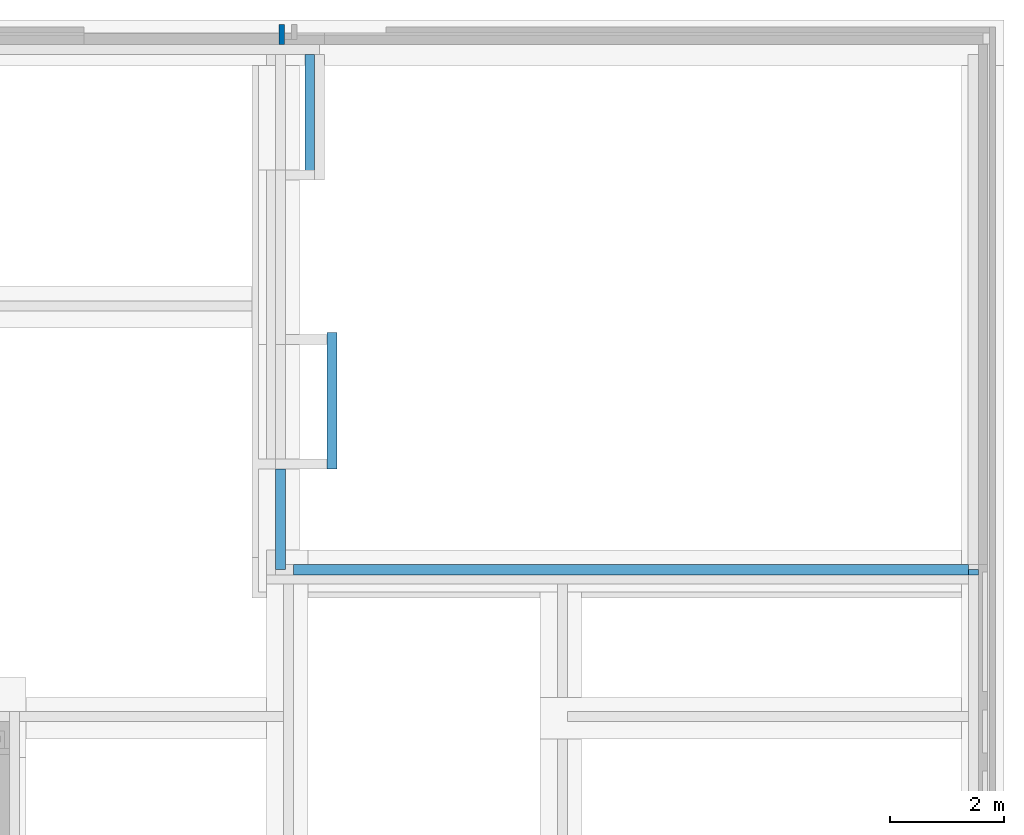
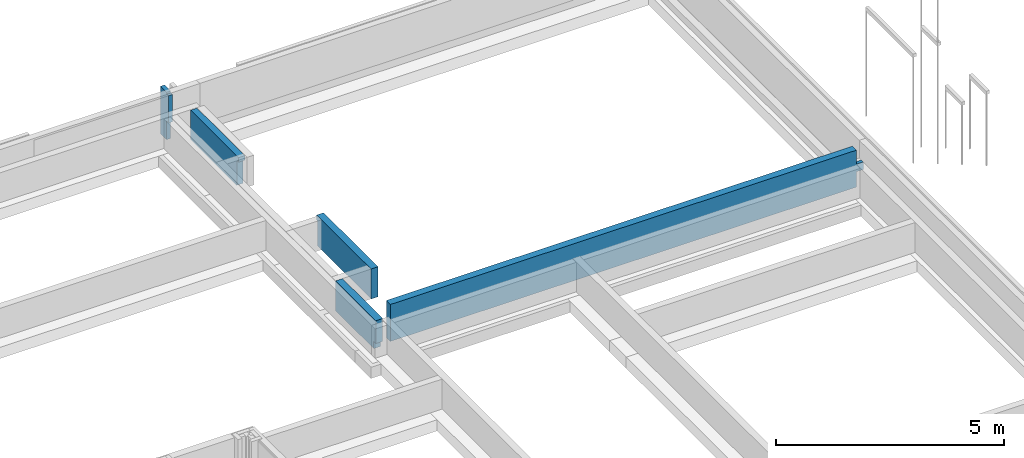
# One storey, part 13 of 15: 5 walls.
"""IFC2X3 building model written with IfcOpenShell, lengths in millimetres."""

from ifc_helpers import new_model, entity, si_unit, converted_unit, derived_unit, direction, frame, origin, place, context, subcontext, project, spatial, faceted_brep, material, layer, layer_set, type_object, element, save


model = new_model("IFC2X3")

# Units and contexts
model_context = context("Model", 3, precision=0.01, world=origin(), true_north=direction((6.123031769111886e-17, 1.0)))
body_context = subcontext(model_context, "Body", "Model", "MODEL_VIEW")
ifc_project = project(units=[si_unit("LENGTHUNIT", "METRE", prefix="MILLI"), si_unit("AREAUNIT", "SQUARE_METRE"), si_unit("VOLUMEUNIT", "CUBIC_METRE"), converted_unit("PLANEANGLEUNIT", "DEGREE", entity("IfcRatioMeasure", 0.017453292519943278), si_unit("PLANEANGLEUNIT", "RADIAN"), dimensions=[0, 0, 0, 0, 0, 0, 0]), si_unit("MASSUNIT", "GRAM", prefix="KILO"), derived_unit("MASSDENSITYUNIT", [(si_unit("MASSUNIT", "GRAM", prefix="KILO"), 1), (si_unit("LENGTHUNIT", "METRE"), -3)]), derived_unit("IONCONCENTRATIONUNIT", [(si_unit("MASSUNIT", "GRAM", prefix="KILO"), 1), (si_unit("LENGTHUNIT", "METRE"), -3)]), derived_unit("MOMENTOFINERTIAUNIT", [(si_unit("LENGTHUNIT", "METRE"), 4)]), si_unit("TIMEUNIT", "SECOND"), si_unit("FREQUENCYUNIT", "HERTZ"), si_unit("THERMODYNAMICTEMPERATUREUNIT", "DEGREE_CELSIUS"), derived_unit("THERMALTRANSMITTANCEUNIT", [(si_unit("MASSUNIT", "GRAM", prefix="KILO"), 1), (si_unit("THERMODYNAMICTEMPERATUREUNIT", "KELVIN"), -1), (si_unit("TIMEUNIT", "SECOND"), -3)]), derived_unit("THERMALCONDUCTANCEUNIT", [(si_unit("MASSUNIT", "GRAM", prefix="KILO"), 1), (si_unit("THERMODYNAMICTEMPERATUREUNIT", "KELVIN"), -1), (si_unit("TIMEUNIT", "SECOND"), -3), (si_unit("LENGTHUNIT", "METRE"), 1)]), derived_unit("VOLUMETRICFLOWRATEUNIT", [(si_unit("LENGTHUNIT", "METRE"), 3), (si_unit("TIMEUNIT", "SECOND"), -1)]), derived_unit("MASSFLOWRATEUNIT", [(si_unit("MASSUNIT", "GRAM", prefix="KILO"), 1), (si_unit("TIMEUNIT", "SECOND"), -1)]), derived_unit("ROTATIONALFREQUENCYUNIT", [(si_unit("TIMEUNIT", "SECOND"), -1)]), si_unit("ELECTRICCURRENTUNIT", "AMPERE"), si_unit("ELECTRICVOLTAGEUNIT", "VOLT"), si_unit("POWERUNIT", "WATT"), si_unit("FORCEUNIT", "NEWTON", prefix="KILO"), si_unit("ILLUMINANCEUNIT", "LUX"), si_unit("LUMINOUSFLUXUNIT", "LUMEN"), si_unit("LUMINOUSINTENSITYUNIT", "CANDELA"), derived_unit("USERDEFINED", [(si_unit("MASSUNIT", "GRAM", prefix="KILO"), -1), (si_unit("LENGTHUNIT", "METRE"), -2), (si_unit("TIMEUNIT", "SECOND"), 3), (si_unit("LUMINOUSFLUXUNIT", "LUMEN"), 1)]), derived_unit("USERDEFINED", [(si_unit("MASSUNIT", "GRAM", prefix="KILO"), 1), (si_unit("TIMEUNIT", "SECOND"), -3), (si_unit("LENGTHUNIT", "METRE"), 3), (si_unit("ELECTRICCURRENTUNIT", "AMPERE"), -2)]), derived_unit("SOUNDPOWERUNIT", [(si_unit("MASSUNIT", "GRAM", prefix="KILO"), 1), (si_unit("TIMEUNIT", "SECOND"), -3), (si_unit("LENGTHUNIT", "METRE"), 2)]), derived_unit("SOUNDPRESSUREUNIT", [(si_unit("MASSUNIT", "GRAM", prefix="KILO"), 1), (si_unit("LENGTHUNIT", "METRE"), -1), (si_unit("TIMEUNIT", "SECOND"), -2)]), derived_unit("LINEARVELOCITYUNIT", [(si_unit("LENGTHUNIT", "METRE"), 1), (si_unit("TIMEUNIT", "SECOND"), -1)]), si_unit("PRESSUREUNIT", "PASCAL"), derived_unit("USERDEFINED", [(si_unit("MASSUNIT", "GRAM", prefix="KILO"), 1), (si_unit("LENGTHUNIT", "METRE"), -2), (si_unit("TIMEUNIT", "SECOND"), -2)]), derived_unit("LINEARFORCEUNIT", [(si_unit("MASSUNIT", "GRAM", prefix="KILO"), 1), (si_unit("TIMEUNIT", "SECOND"), -2)]), derived_unit("PLANARFORCEUNIT", [(si_unit("MASSUNIT", "GRAM", prefix="KILO"), 1), (si_unit("LENGTHUNIT", "METRE"), -1), (si_unit("TIMEUNIT", "SECOND"), -2)]), derived_unit("SPECIFICHEATCAPACITYUNIT", [(si_unit("THERMODYNAMICTEMPERATUREUNIT", "KELVIN"), -1), (si_unit("LENGTHUNIT", "METRE"), 2), (si_unit("TIMEUNIT", "SECOND"), -2)]), derived_unit("HEATINGVALUEUNIT", [(si_unit("LENGTHUNIT", "METRE"), 2), (si_unit("TIMEUNIT", "SECOND"), -2)]), derived_unit("VAPORPERMEABILITYUNIT", [(si_unit("LENGTHUNIT", "METRE"), -1), (si_unit("TIMEUNIT", "SECOND"), 1)]), derived_unit("DYNAMICVISCOSITYUNIT", [(si_unit("MASSUNIT", "GRAM", prefix="KILO"), 1), (si_unit("TIMEUNIT", "SECOND"), -1), (si_unit("LENGTHUNIT", "METRE"), -1)]), derived_unit("THERMALEXPANSIONCOEFFICIENTUNIT", [(si_unit("THERMODYNAMICTEMPERATUREUNIT", "KELVIN"), -1)]), derived_unit("MODULUSOFELASTICITYUNIT", [(si_unit("MASSUNIT", "GRAM", prefix="KILO"), 1), (si_unit("LENGTHUNIT", "METRE"), -1), (si_unit("TIMEUNIT", "SECOND"), -2)]), derived_unit("ISOTHERMALMOISTURECAPACITYUNIT", [(si_unit("LENGTHUNIT", "METRE"), 3), (si_unit("MASSUNIT", "GRAM", prefix="KILO"), -1)]), derived_unit("MOISTUREDIFFUSIVITYUNIT", [(si_unit("TIMEUNIT", "SECOND"), -1), (si_unit("LENGTHUNIT", "METRE"), 2)])], contexts=[model_context])

# Site, building, storey
site_placement = place(None, frame((0.0, 300.0, 0.0)))
site = spatial("IfcSite", under=ifc_project, at=site_placement, Name="<Kadastrale nummers>", CompositionType="ELEMENT")
building_placement = place(site_placement, origin())
building = spatial("IfcBuilding", under=site, at=building_placement, CompositionType="ELEMENT")
storey_placement = place(building_placement, frame((0.0, 0.0, -1570.0)))
storey = spatial("IfcBuildingStorey", under=building, at=storey_placement, Name="-1 fundering", CompositionType="ELEMENT", Elevation=-1570.0)

# Walls
ifc_material_1 = material(Name="ISR_Metselwerk")
ifc_layer_1 = layer(ifc_material_1, 100.0)
ifc_layer_set_1 = layer_set([ifc_layer_1], Name="Basic Wall:21_DAT_metselwerk_100")
wall_type_1 = type_object("IfcWallType", Name="Basic Wall:21_DAT_metselwerk_100", PredefinedType="STANDARD", material=ifc_layer_set_1)
wall_1_placement = place(storey_placement, frame((36490.0, 49875.0, 300.0), z_axis=(0.0, 0.0, 1.0), x_axis=(0.0, 1.0, 0.0)))
element("IfcWall", 1, at=wall_1_placement, inside=storey, type_object=wall_type_1, Name="Basic Wall:21_DAT_metselwerk_100", ObjectType="Basic Wall:21_DAT_metselwerk_100", context=body_context, shape_type="Brep", body=[
    faceted_brep([(85.0, -50.0, 0.0), (185.0, -50.0, 0.0), (350.0, -50.0, 0.0), (350.0, -50.0, 1270.0), (185.0, -50.0, 1270.0), (85.0, -50.0, 1270.0), (85.0, -50.0, 1230.0), (0.0, -50.0, 1230.0), (0.0, -50.0, 500.0), (85.0, -50.0, 500.0), (85.0, 50.0, 0.0), (85.0, 50.0, 500.0), (0.0, 50.0, 500.0), (0.0, 50.0, 1230.0), (85.0, 50.0, 1230.0), (85.0, 50.0, 1270.0), (350.0, 50.0, 1270.0), (350.0, 50.0, 0.0)], [[[0, 1, 2, 3, 4, 5, 6, 7, 8, 9]], [[10, 11, 12, 13, 14, 15, 16, 17]], [[2, 1, 0, 10, 17]], [[3, 2, 17, 16]], [[5, 4, 3, 16, 15]], [[8, 12, 11, 9]], [[6, 14, 13, 7]], [[0, 9, 11, 10]], [[8, 7, 13, 12]], [[6, 5, 15, 14]]]),
])
ifc_material_2 = material(Name="ISR_Gips")
ifc_layer_2 = layer(ifc_material_2, 1.0)
ifc_material_3 = material(Name="ISR_Beton ihwg")
ifc_layer_3 = layer(ifc_material_3, 178.0)
ifc_layer_4 = layer(ifc_material_2, 1.0)
ifc_layer_set_2 = layer_set([ifc_layer_2, ifc_layer_3, ifc_layer_4], Name="Basic Wall:28_DAT_ihw beton_180")
wall_type_2 = type_object("IfcWallType", Name="Basic Wall:28_DAT_ihw beton_180", PredefinedType="STANDARD", material=ifc_layer_set_2)
wall_2_placement = place(storey_placement, frame((36700.0, 40685.0, 488.0)))
element("IfcWall", 2, at=wall_2_placement, inside=storey, type_object=wall_type_2, Name="Basic Wall:28_DAT_ihw beton_180", ObjectType="Basic Wall:28_DAT_ihw beton_180", context=body_context, shape_type="Brep", body=[
    faceted_brep([(0.0, -90.0, 0.0), (11800.0, -90.0, 0.0), (11800.0, -90.0, 412.0), (11975.0, -90.0, 412.0), (11975.0, -90.0, 612.0), (11800.0, -90.0, 612.0), (11800.0, -90.0, 989.56190756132), (0.0, -90.0, 989.56190756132), (0.0, 90.0, 0.0), (0.0, 90.0, 989.56190756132), (11800.0, 90.0, 989.56190756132), (11800.0, 90.0, 612.0), (11800.0, 90.0, 412.0), (11800.0, 90.0, 0.0), (0.0, 0.0, 0.0), (11800.0, 0.0, 412.0), (11975.0, 0.0, 412.0), (11975.0, 0.0, 612.0), (11800.0, 0.0, 612.0)], [[[0, 1, 2, 3, 4, 5, 6, 7]], [[8, 9, 10, 11, 12, 13]], [[1, 0, 14, 8, 13]], [[7, 6, 10, 9]], [[2, 1, 13, 12, 15]], [[4, 3, 16, 17]], [[6, 5, 18, 11, 10]], [[15, 16, 3, 2]], [[0, 7, 9, 8, 14]], [[18, 5, 4, 17]], [[16, 15, 18, 17]], [[15, 12, 11, 18]]]),
])
ifc_layer_5 = layer(ifc_material_2, 1.0)
ifc_material_4 = material(Name="ISR_Kalkzandsteen")
ifc_layer_6 = layer(ifc_material_4, 173.0)
ifc_layer_7 = layer(ifc_material_2, 1.0)
ifc_layer_set_3 = layer_set([ifc_layer_5, ifc_layer_6, ifc_layer_7], Name="Basic Wall:28_DAT_kalkzandsteen_175mm")
wall_type_3 = type_object("IfcWallType", Name="Basic Wall:28_DAT_kalkzandsteen_175mm", PredefinedType="STANDARD", material=ifc_layer_set_3)
wall_3_placement = place(storey_placement, frame((37367.53993788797, 44835.0, 300.0), z_axis=(0.0, 0.0, 1.0), x_axis=(0.0, -1.0, 0.0)))
element("IfcWall", 3, at=wall_3_placement, inside=storey, type_object=wall_type_3, Name="Basic Wall:28_DAT_kalkzandsteen_175mm", ObjectType="Basic Wall:28_DAT_kalkzandsteen_175mm", context=body_context, shape_type="Brep", body=[
    faceted_brep([(38.686677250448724, -87.49999999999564, 0.0), (213.68667725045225, -87.49999999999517, 0.0), (2212.874997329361, -87.4999999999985, 0.0), (2387.8749973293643, -87.49999999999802, 0.0), (2387.8749973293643, -87.49999999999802, 800.0), (2212.874997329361, -87.4999999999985, 800.0), (213.68667725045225, -87.49999999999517, 800.0), (38.686677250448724, -87.49999999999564, 800.0), (0.0, -87.49999999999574, 800.0), (0.0, -87.49999999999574, 670.0), (38.686677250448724, -87.49999999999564, 670.0), (38.686677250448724, 87.50000000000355, 0.0), (38.686677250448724, 87.50000000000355, 670.0), (0.0, 87.50000000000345, 670.0), (0.0, 87.50000000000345, 800.0), (2387.8749973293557, 87.50000000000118, 800.0), (2387.8749973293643, 87.50000000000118, 0.0), (0.0, -7.500000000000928, 670.0)], [[[0, 1, 2, 3, 4, 5, 6, 7, 8, 9, 10]], [[11, 12, 13, 14, 15, 16]], [[3, 2, 1, 0, 11, 16]], [[8, 7, 6, 5, 4, 15, 14]], [[9, 17, 13, 12, 10]], [[0, 10, 12, 11]], [[9, 8, 14, 13, 17]], [[4, 3, 16, 15]]]),
])
wall_4_placement = place(storey_placement, frame((36467.53993788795, 42447.12500267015, 300.0), z_axis=(0.0, 0.0, 1.0), x_axis=(0.0, -1.0, 0.0)))
element("IfcWall", 4, at=wall_4_placement, inside=storey, type_object=wall_type_3, Name="Basic Wall:28_DAT_kalkzandsteen_175mm", ObjectType="Basic Wall:28_DAT_kalkzandsteen_175mm", context=body_context, shape_type="Brep", body=[
    faceted_brep([(0.0, -87.49999999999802, 0.0), (1672.1250026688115, -87.49999999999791, 0.0), (1672.1250026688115, -87.50000000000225, 188.0), (1762.1250026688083, -87.50000000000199, 188.0), (1762.1250026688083, -87.50000000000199, 800.0), (0.0, -87.49999999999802, 800.0), (0.0, 87.50000000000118, 0.0), (0.0, 87.50000000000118, 800.0), (1762.1250026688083, 87.49999999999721, 800.0), (1762.1250026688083, 87.49999999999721, 188.0), (1672.1250026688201, 87.5000000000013, 188.0), (1672.1250026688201, 87.5000000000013, 0.0), (1762.1250026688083, 57.46006211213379, 800.0), (1762.1250026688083, 57.46006211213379, 188.0)], [[[0, 1, 2, 3, 4, 5]], [[6, 7, 8, 9, 10, 11]], [[1, 0, 6, 11]], [[5, 4, 12, 8, 7]], [[0, 5, 7, 6]], [[4, 3, 13, 9, 8, 12]], [[9, 13, 3, 2, 10]], [[2, 1, 11, 10]]]),
])
ifc_material_5 = material(Name="ISR_Isolatie")
ifc_layer_8 = layer(ifc_material_5, 160.0)
ifc_layer_set_4 = layer_set([ifc_layer_8], Name="Basic Wall:21_DAT_isolatie minerale wol_160")
wall_type_4 = type_object("IfcWallType", Name="Basic Wall:21_DAT_isolatie minerale wol_160", PredefinedType="STANDARD", material=ifc_layer_set_4)
wall_5_placement = place(storey_placement, frame((36980.03993788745, 49700.0, 300.0), z_axis=(0.0, 0.0, 1.0), x_axis=(0.0, -1.0, 0.0)))
element("IfcWall", 5, at=wall_5_placement, inside=storey, type_object=wall_type_4, Name="Basic Wall:21_DAT_isolatie minerale wol_160", ObjectType="Basic Wall:21_DAT_isolatie minerale wol_160", context=body_context, shape_type="Brep", body=[
    faceted_brep([(0.0, -80.0, 0.0), (2020.0, -80.0, 0.0), (2020.0, -80.0, 670.0), (2100.0, -80.0, 670.0), (2100.0, -80.0, 788.0), (0.0, -80.0, 788.0), (0.0, 80.0, 0.0), (0.0, 80.0, 788.0), (2100.0, 80.0, 788.0), (2100.0, 80.0, 670.0), (2020.0, 80.0, 670.0), (2020.0, 80.0, 0.0)], [[[0, 1, 2, 3, 4, 5]], [[6, 7, 8, 9, 10, 11]], [[1, 0, 6, 11]], [[5, 4, 8, 7]], [[9, 3, 2, 10]], [[2, 1, 11, 10]], [[4, 3, 9, 8]], [[0, 5, 7, 6]]]),
])

save(model, "model.ifc")
